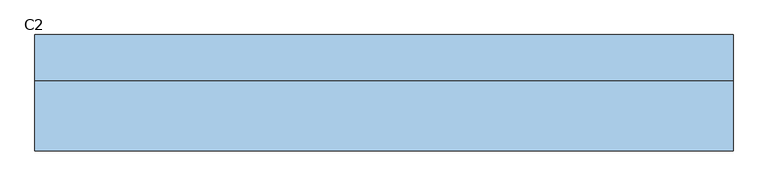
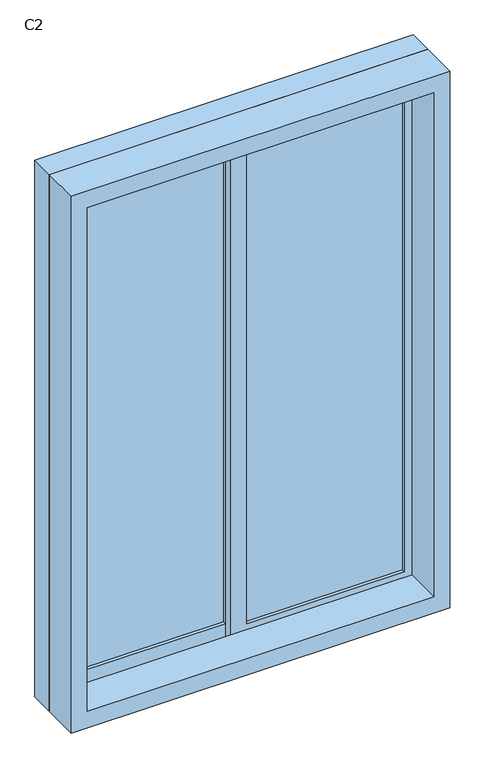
"""IFC4 building model written with IfcOpenShell, lengths in millimetres: window geometry, 推拉窗6 : C2."""

from ifc_helpers import new_model, si_unit, frame, origin, place, context, project, spatial, polyline, outline, extrude, source, transform, mapped, element, save


def c2_95beaf48(model_context):
    return source(origin(), model_context, "Body", "SweptSolid", [
        extrude(outline(polyline([(-515.475, 3.1265625), (-15.475, 3.1265625), (-15.475, -6.8734375), (-515.475, -6.8734375), (-515.475, 3.1265625)])), frame((0.0, 0.0, 975.0), z_axis=(0.0, 0.0, 1.0), x_axis=(1.0, 0.0, 0.0)), (0.0, 0.0, 1.0), 1650.0),
        extrude(outline(polyline([(34.525, -26.8734375), (534.525, -26.8734375), (534.525, -36.8734375), (34.525, -36.8734375), (34.525, -26.8734375)])), frame((0.0, 0.0, 975.0), z_axis=(0.0, 0.0, 1.0), x_axis=(1.0, 0.0, 0.0)), (0.0, 0.0, 1.0), 1650.0),
        extrude(outline(polyline([(2700.0, -590.475), (900.0, -590.475), (900.0, 609.525), (2700.0, 609.525), (2700.0, -590.475)]), holes=[polyline([(2645.0, 559.525), (955.0, 559.525), (955.0, -540.475), (2645.0, -540.475), (2645.0, 559.525)])]), frame((0.0, -166.8734375, 0.0), z_axis=(0.0, 1.0, 0.0), x_axis=(0.0, 0.0, 1.0)), (0.0, 0.0, 1.0), 120.0),
        extrude(outline(polyline([(925.0, 34.525), (2675.0, 34.525), (2675.0, -565.475), (925.0, -565.475), (925.0, 34.525)]), holes=[polyline([(975.0, -15.475), (975.0, -515.475), (2625.0, -515.475), (2625.0, -15.475), (975.0, -15.475)])]), frame((0.0, -16.8734375, 0.0), z_axis=(0.0, 1.0, 0.0), x_axis=(0.0, 0.0, 1.0)), (0.0, 0.0, 1.0), 30.0),
        extrude(outline(polyline([(2675.0, -15.475), (925.0, -15.475), (925.0, 584.525), (2675.0, 584.525), (2675.0, -15.475)]), holes=[polyline([(2625.0, 34.525), (2625.0, 534.525), (975.0, 534.525), (975.0, 34.525), (2625.0, 34.525)])]), frame((0.0, -46.8734375, 0.0), z_axis=(0.0, 1.0, 0.0), x_axis=(0.0, 0.0, 1.0)), (0.0, 0.0, 1.0), 30.0),
        extrude(outline(polyline([(2700.0, -590.475), (900.0, -590.475), (900.0, 609.525), (2700.0, 609.525), (2700.0, -590.475)]), holes=[polyline([(925.0, -565.475), (2675.0, -565.475), (2675.0, 584.525), (925.0, 584.525), (925.0, -565.475)])]), frame((0.0, -46.8734375, 0.0), z_axis=(0.0, 1.0, 0.0), x_axis=(0.0, 0.0, 1.0)), (0.0, 0.0, 1.0), 80.0),
    ])


if __name__ == "__main__":
    model = new_model("IFC4")
    model_context = context("Model", 3, world=origin())
    ifc_project = project(units=[si_unit("LENGTHUNIT", "METRE", prefix="MILLI")], contexts=[model_context])
    site = spatial("IfcSite", under=ifc_project)
    building = spatial("IfcBuilding", under=site)
    placement = place(None, origin())
    c2_shape = c2_95beaf48(model_context)
    element("IfcWindow", 1, ObjectType="推拉窗6 : C2", at=placement, inside=building, context=model_context, shape_type="MappedRepresentation", body=[
        mapped(c2_shape, transform((0.0, 0.0, 0.0), x_axis=(1.0, 0.0, 0.0), y_axis=(0.0, 1.0, 0.0), z_axis=(0.0, 0.0, 1.0))),
    ])
    save(model, "model.ifc")
